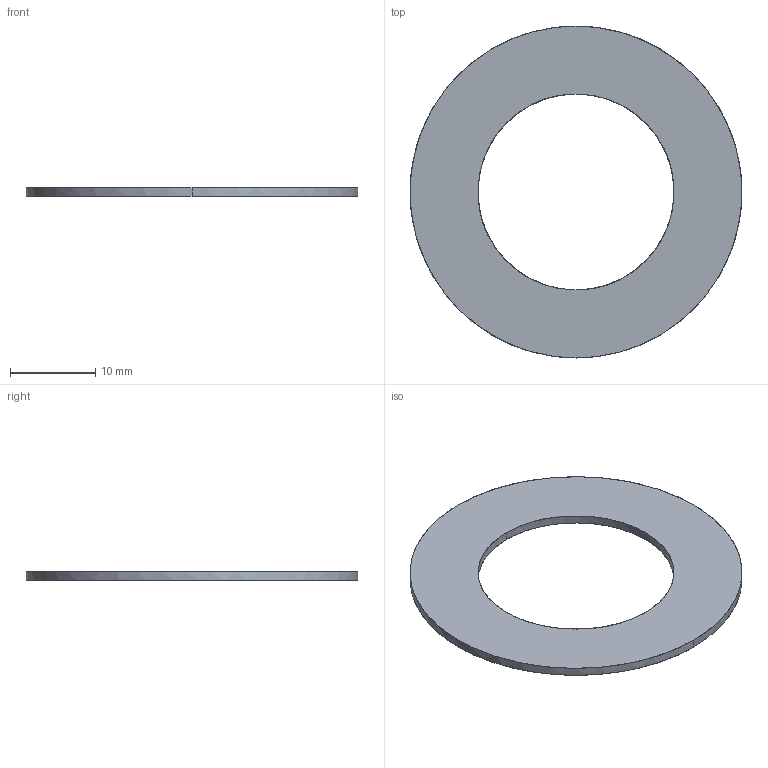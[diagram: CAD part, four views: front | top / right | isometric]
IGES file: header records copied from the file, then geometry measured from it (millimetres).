
Global section: file name: E:\UnigraphicsGraphicData\MISUMI_PRESS-PARTS\IGES\3d_sswa39-1.0_00818_r00.igs; native system: NX V5.0; preprocessor: UGS NX IGES V5.0; author: MISUMI; date: 20110105.163200; units: millimetre
Bounding box: 39 x 39 x 1 mm (x, y, z)
Surface area: 1750.7 mm2 (no closed solid volume)
Topology: 0 solids, 0 shells, 6 faces, 64 edges, 64 vertices
Faces by surface type: bspline 6
